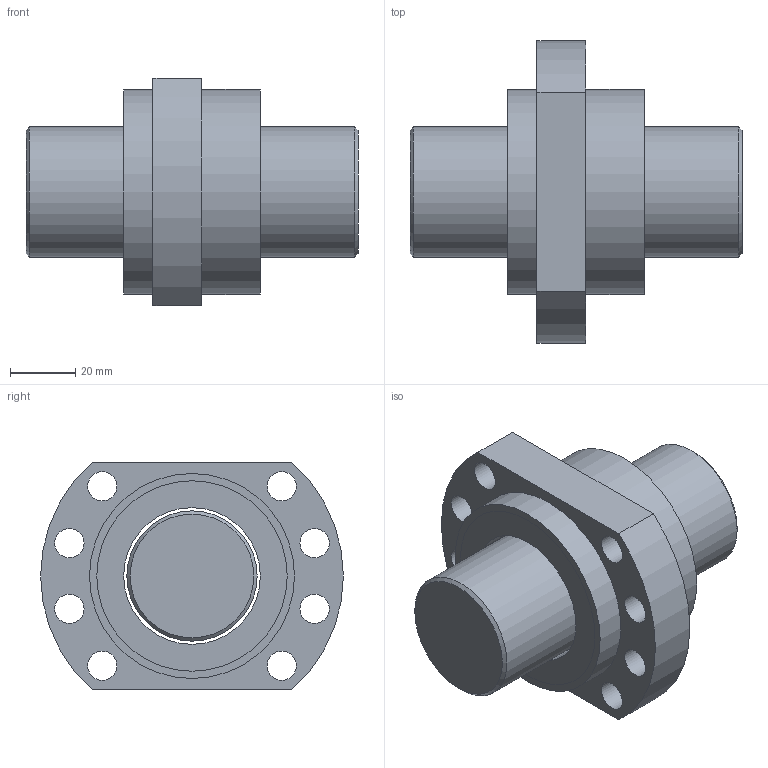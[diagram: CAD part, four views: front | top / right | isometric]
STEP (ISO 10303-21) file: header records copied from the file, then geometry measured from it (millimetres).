
FILE_DESCRIPTION(/* description */ (''),/* implementation_level */ '2;1');
FILE_NAME(/* name */ 'SFH4005-3.8.stp',/* time_stamp */ '2014-10-15T11:57:40+08:00',/* author */ (''),/* organization */ (''),/* preprocessor_version */ 'ST-DEVELOPER v11',/* originating_system */ 'SIEMENS UGS NX 6.0',/* authorisation */ '');
FILE_SCHEMA (('CONFIG_CONTROL_DESIGN'));
Length unit declared in the file: millimetre
Products named in the file (1): fannB1F9gma8
Bounding box: 102 x 93 x 70 mm (x, y, z)
Volume: 233817.6 mm3; surface area: 52938.3 mm2
Topology: 4 solids, 4 shells, 52 faces, 96 edges, 64 vertices
Faces by surface type: cylinder 28, plane 22, cone 2
Full cylindrical faces by diameter (mm): 9 x8, 40 x1, 42 x3, 55 x4, 58.5 x4, 60 x4, 63 x2
Entity records: 1284 total; most frequent: DIRECTION 230, CARTESIAN_POINT 181, ORIENTED_EDGE 132, EDGE_LOOP 114, AXIS2_PLACEMENT_3D 111, FACE_BOUND 108, EDGE_CURVE 66, VERTEX_POINT 62
